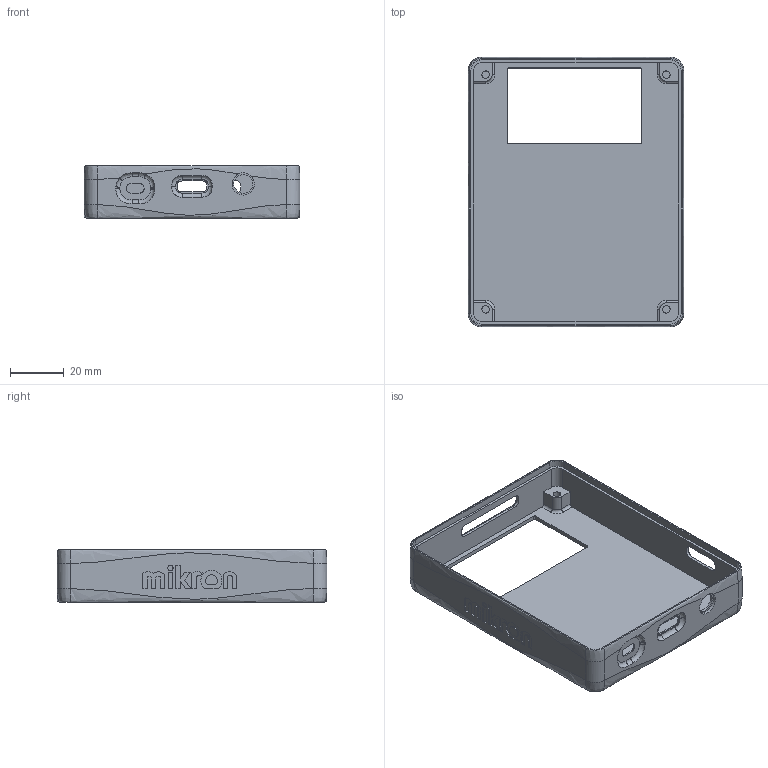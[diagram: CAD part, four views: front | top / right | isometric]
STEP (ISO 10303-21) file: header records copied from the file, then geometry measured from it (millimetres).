
FILE_DESCRIPTION (( 'STEP AP214' ), '1' );
FILE_NAME ('Êîðïóñ.STEP', '2026-03-27T10:12:44', ( '' ), ( '' ), 'SwSTEP 2.0', 'SolidWorks 2025', '' );
FILE_SCHEMA (( 'AUTOMOTIVE_DESIGN' ));
Length unit declared in the file: millimetre
Products named in the file (1): Корпус
Bounding box: 80 x 100 x 19.3 mm (x, y, z)
Volume: 22776.9 mm3; surface area: 26399.7 mm2
Topology: 1 solids, 1 shells, 481 faces, 1266 edges, 831 vertices
Faces by surface type: plane 252, cylinder 182, bspline 35, torus 8, cone 4
Entity records: 23301 total; most frequent: CARTESIAN_POINT 6087, ORIENTED_EDGE 2532, DIRECTION 2411, EDGE_CURVE 1266, VERTEX_POINT 831, AXIS2_PLACEMENT_3D 813, VECTOR 785, LINE 785
